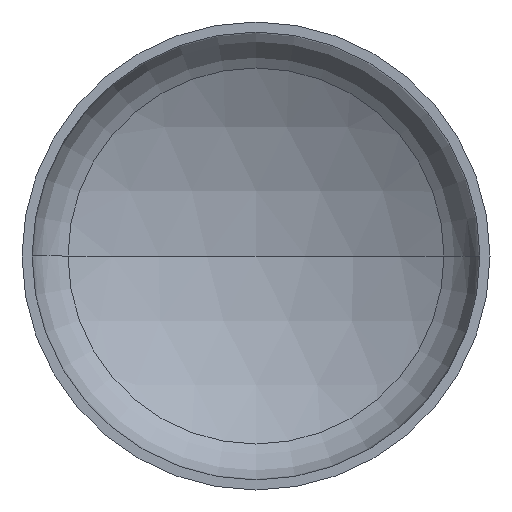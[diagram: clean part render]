
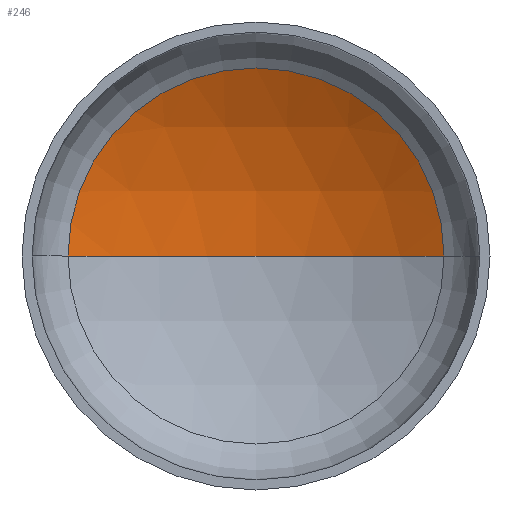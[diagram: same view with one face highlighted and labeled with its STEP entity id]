
A CAD part, front view. The second image highlights one B-rep face of the part: STEP entity #246.
In plain terms, the highlighted spherical face has radius 3040 mm.
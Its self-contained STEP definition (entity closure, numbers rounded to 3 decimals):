
#10 = VERTEX_POINT ( 'NONE', #293 ) ;
#13 = EDGE_LOOP ( 'NONE', ( #114, #48, #43 ) ) ;
#38 = CARTESIAN_POINT ( 'NONE',  ( 0., -2022.907, 0. ) ) ;
#40 = AXIS2_PLACEMENT_3D ( 'NONE', #38, #184, #189 ) ;
#41 = AXIS2_PLACEMENT_3D ( 'NONE', #178, #120, #133 ) ;
#43 = ORIENTED_EDGE ( 'NONE', *, *, #218, .T. ) ;
#45 = AXIS2_PLACEMENT_3D ( 'NONE', #66, #56, #50 ) ;
#48 = ORIENTED_EDGE ( 'NONE', *, *, #236, .T. ) ;
#50 = DIRECTION ( 'NONE',  ( -1., 0., 0. ) ) ;
#51 = AXIS2_PLACEMENT_3D ( 'NONE', #275, #251, #249 ) ;
#56 = DIRECTION ( 'NONE',  ( 0., 0., -1. ) ) ;
#60 = VERTEX_POINT ( 'NONE', #290 ) ;
#66 = CARTESIAN_POINT ( 'NONE',  ( 0., -2022.907, 0. ) ) ;
#114 = ORIENTED_EDGE ( 'NONE', *, *, #252, .F. ) ;
#120 = DIRECTION ( 'NONE',  ( 0., 0., 1. ) ) ;
#123 = VERTEX_POINT ( 'NONE', #316 ) ;
#133 = DIRECTION ( 'NONE',  ( 1., 0., 0. ) ) ;
#178 = CARTESIAN_POINT ( 'NONE',  ( 0., -2022.907, 0. ) ) ;
#184 = DIRECTION ( 'NONE',  ( 0., 0., -1. ) ) ;
#188 = CIRCLE ( 'NONE', #45, 3040. ) ;
#189 = DIRECTION ( 'NONE',  ( -1., 0., 0. ) ) ;
#194 = CIRCLE ( 'NONE', #51, 1526.811 ) ;
#218 = EDGE_CURVE ( 'NONE', #123, #10, #194, .T. ) ;
#236 = EDGE_CURVE ( 'NONE', #60, #123, #188, .T. ) ;
#246 = ADVANCED_FACE ( 'NONE', ( #311 ), #259, .F. ) ;
#249 = DIRECTION ( 'NONE',  ( 1., 0., 0. ) ) ;
#251 = DIRECTION ( 'NONE',  ( 0., -1., 0. ) ) ;
#252 = EDGE_CURVE ( 'NONE', #60, #10, #370, .T. ) ;
#259 = SPHERICAL_SURFACE ( 'NONE', #40, 3040. ) ;
#275 = CARTESIAN_POINT ( 'NONE',  ( 0., 605.866, 0. ) ) ;
#290 = CARTESIAN_POINT ( 'NONE',  ( 0., 1017.093, 0. ) ) ;
#293 = CARTESIAN_POINT ( 'NONE',  ( -1526.811, 605.866, 0. ) ) ;
#311 = FACE_OUTER_BOUND ( 'NONE', #13, .T. ) ;
#316 = CARTESIAN_POINT ( 'NONE',  ( 1526.811, 605.866, 0. ) ) ;
#370 = CIRCLE ( 'NONE', #41, 3040. ) ;
